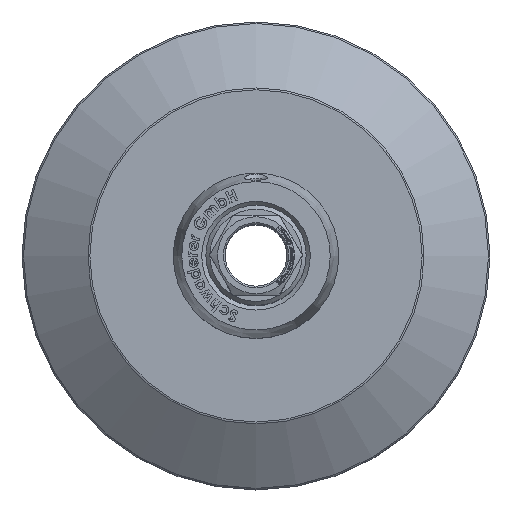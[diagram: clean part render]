
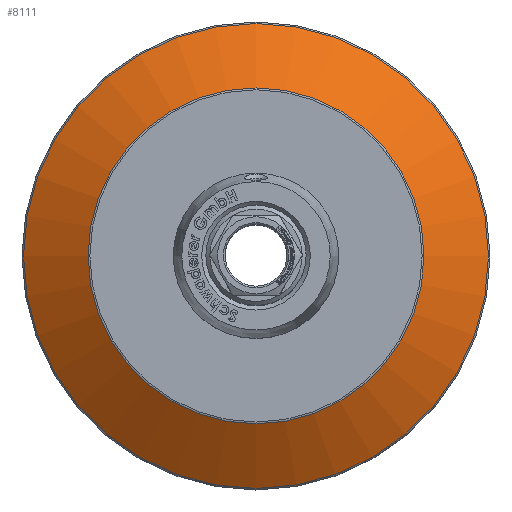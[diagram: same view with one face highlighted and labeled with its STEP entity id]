
A CAD part, top view. The second image highlights one B-rep face of the part: STEP entity #8111.
In plain terms, the highlighted conical face has half-angle 56.976 degrees and reference radius 60 mm.
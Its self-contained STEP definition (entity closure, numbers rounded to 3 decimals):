
#2411=CONICAL_SURFACE('',#8597,60.,56.976);
#2429=FACE_BOUND('',#2995,.T.);
#2514=FACE_OUTER_BOUND('',#2994,.T.);
#2994=EDGE_LOOP('',(#5669));
#2995=EDGE_LOOP('',(#5670));
#3556=CIRCLE('',#8595,50.249);
#3558=CIRCLE('',#8598,69.545);
#3623=VERTEX_POINT('',#10422);
#3625=VERTEX_POINT('',#10427);
#4447=EDGE_CURVE('',#3623,#3623,#3556,.T.);
#4449=EDGE_CURVE('',#3625,#3625,#3558,.T.);
#5669=ORIENTED_EDGE('',*,*,#4449,.F.);
#5670=ORIENTED_EDGE('',*,*,#4447,.F.);
#8111=ADVANCED_FACE('',(#2514,#2429),#2411,.T.);
#8595=AXIS2_PLACEMENT_3D('',#10423,#8956,#8957);
#8597=AXIS2_PLACEMENT_3D('',#10426,#8960,#8961);
#8598=AXIS2_PLACEMENT_3D('',#10428,#8962,#8963);
#8956=DIRECTION('center_axis',(0.,0.,
1.));
#8957=DIRECTION('ref_axis',(-1.,0.,0.));
#8960=DIRECTION('center_axis',(0.,0.,-1.));
#8961=DIRECTION('ref_axis',(1.,0.,0.));
#8962=DIRECTION('center_axis',(0.,0.,
-1.));
#8963=DIRECTION('ref_axis',(-1.,0.,0.));
#10422=CARTESIAN_POINT('',(50.249,0.,-24.029));
#10423=CARTESIAN_POINT('Origin',(0.,0.,-24.029));
#10426=CARTESIAN_POINT('Origin',(0.,0.,-30.367));
#10427=CARTESIAN_POINT('',(69.545,0.,-36.571));
#10428=CARTESIAN_POINT('Origin',(0.,0.,
-36.571));
